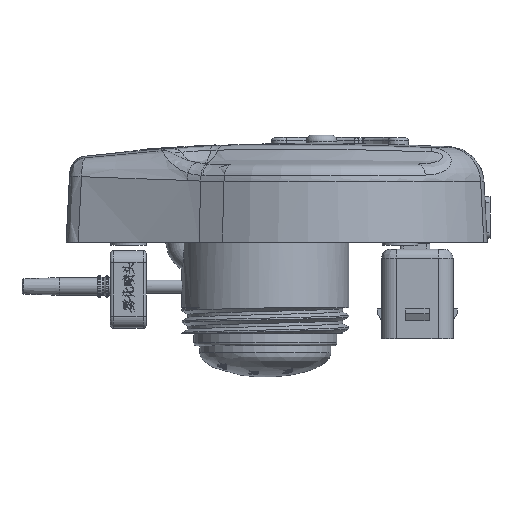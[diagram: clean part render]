
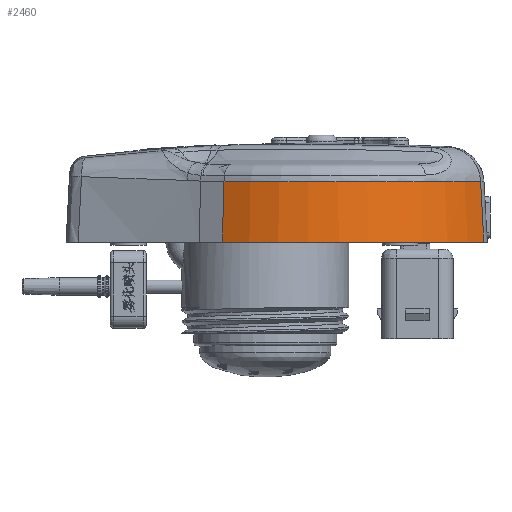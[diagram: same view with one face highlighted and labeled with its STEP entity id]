
A CAD part, front view. The second image highlights one B-rep face of the part: STEP entity #2460.
In plain terms, the highlighted conical face has half-angle 3 degrees and reference radius 30.3 mm.
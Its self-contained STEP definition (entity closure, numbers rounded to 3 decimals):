
#344=CONICAL_SURFACE('',#18347,30.3,3.);
#1610=CIRCLE('',#18341,31.111);
#1614=CIRCLE('',#18346,30.579);
#2460=ADVANCED_FACE('',(#3513),#344,.T.);
#3513=FACE_OUTER_BOUND('',#4599,.T.);
#4599=EDGE_LOOP('',(#10802,#10803,#10804,#10805));
#5913=LINE('',#38221,#7246);
#7246=VECTOR('',#21307,1.);
#10802=ORIENTED_EDGE('',*,*,#16000,.T.);
#10803=ORIENTED_EDGE('',*,*,#16001,.T.);
#10804=ORIENTED_EDGE('',*,*,#16002,.F.);
#10805=ORIENTED_EDGE('',*,*,#15968,.T.);
#13828=VERTEX_POINT('',#37545);
#13829=VERTEX_POINT('',#37547);
#13853=VERTEX_POINT('',#38218);
#13854=VERTEX_POINT('',#38220);
#15968=EDGE_CURVE('',#13829,#13828,#1610,.T.);
#16000=EDGE_CURVE('',#13828,#13853,#17463,.T.);
#16001=EDGE_CURVE('',#13853,#13854,#1614,.T.);
#16002=EDGE_CURVE('',#13829,#13854,#5913,.T.);
#17463=B_SPLINE_CURVE_WITH_KNOTS('',3,(#38214,#38215,#38216,#38217),
 .UNSPECIFIED.,.F.,.F.,(4,4),(0.,1.),.UNSPECIFIED.);
#18341=AXIS2_PLACEMENT_3D('',#37546,#21294,#21295);
#18346=AXIS2_PLACEMENT_3D('',#38219,#21305,#21306);
#18347=AXIS2_PLACEMENT_3D('',#38222,#21308,#21309);
#21294=DIRECTION('',(0.,0.,1.));
#21295=DIRECTION('',(1.,0.,0.));
#21305=DIRECTION('',(0.,0.,-1.));
#21306=DIRECTION('',(1.,0.,0.));
#21307=DIRECTION('',(0.027,0.045,0.999));
#21308=DIRECTION('',(0.,0.,-1.));
#21309=DIRECTION('',(1.,0.,0.));
#37545=CARTESIAN_POINT('',(37.168,-15.346,0.));
#37546=CARTESIAN_POINT('',(9.641,-0.851,0.));
#37547=CARTESIAN_POINT('',(-6.689,-27.332,0.));
#38214=CARTESIAN_POINT('',(37.297,-15.372,-2.4));
#38215=CARTESIAN_POINT('',(37.073,-15.327,1.778));
#38216=CARTESIAN_POINT('',(36.85,-15.281,5.956));
#38217=CARTESIAN_POINT('',(36.626,-15.235,10.135));
#38218=CARTESIAN_POINT('',(36.625,-15.235,10.143));
#38219=CARTESIAN_POINT('',(9.641,-0.851,10.143));
#38220=CARTESIAN_POINT('',(-6.41,-26.879,10.143));
#38221=CARTESIAN_POINT('',(-6.264,-26.642,15.466));
#38222=CARTESIAN_POINT('',(9.641,-0.851,15.466));
